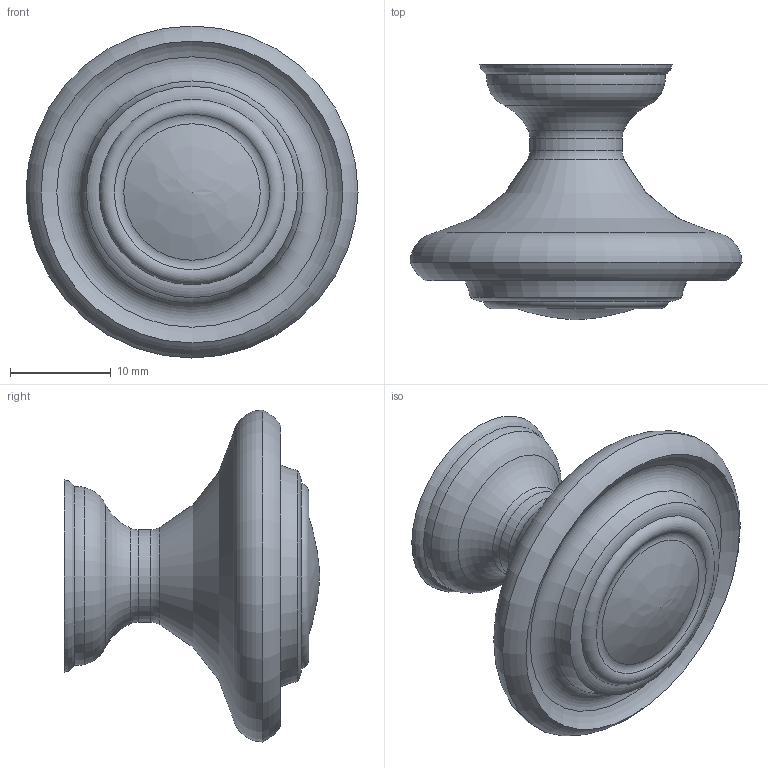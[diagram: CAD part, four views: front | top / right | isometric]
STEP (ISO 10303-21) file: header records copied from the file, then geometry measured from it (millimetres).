
FILE_DESCRIPTION( ( 'STEP AP203' ), '1' );
FILE_NAME( '//10.120.51.241/Design/Data Transfer/Sunil/9113219.stp', ' ', ( ' ' ), ( ' ' ), 'PSStep 15.0.47', 'PARTsolutions', ' ' );
FILE_SCHEMA( ( 'CONFIG_CONTROL_DESIGN' ) );
Length unit declared in the file: millimetre
Products named in the file (1): HI_9113219
Bounding box: 33 x 25.4 x 33 mm (x, y, z)
Volume: 7305.7 mm3; surface area: 3116.4 mm2
Topology: 1 solids, 1 shells, 20 faces, 38 edges, 20 vertices
Faces by surface type: torus 15, plane 2, cylinder 2, bspline 1
Full cylindrical faces by diameter (mm): 5 x1, 9.2 x1
Entity records: 469 total; most frequent: CARTESIAN_POINT 88, DIRECTION 78, AXIS2_PLACEMENT_3D 39, EDGE_LOOP 38, ORIENTED_EDGE 38, FACE_OUTER_BOUND 37, VERTEX_POINT 21, ADVANCED_FACE 20
